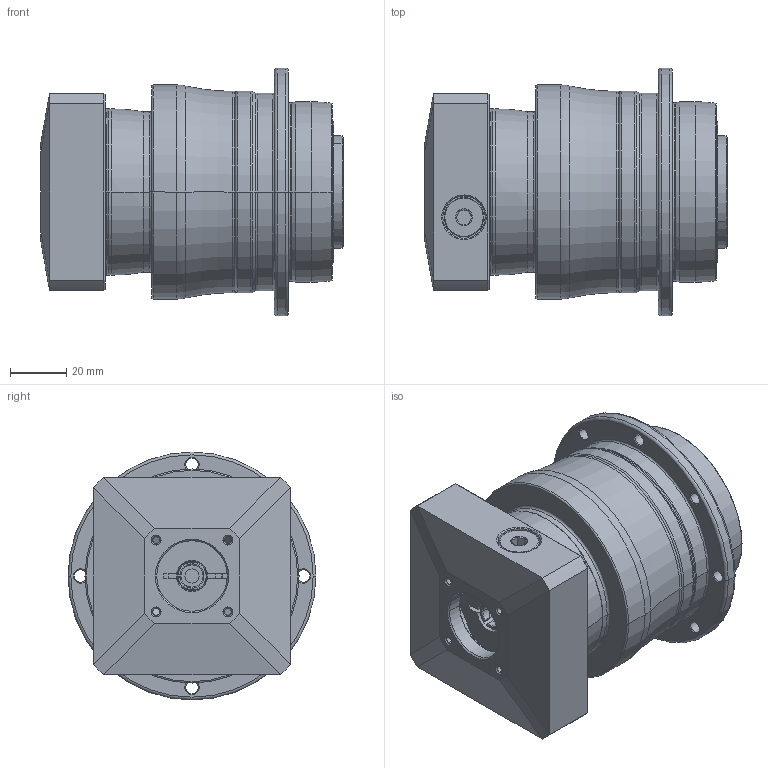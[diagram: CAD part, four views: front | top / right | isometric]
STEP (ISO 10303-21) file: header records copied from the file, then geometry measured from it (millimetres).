
FILE_DESCRIPTION((''),'2;1');
FILE_NAME('AH064_2ST_8-P0409100101_ASM','2016-08-03T',('d01943'),(''),'PRO/ENGINEER BY PARAMETRIC TECHNOLOGY CORPORATION, 2008410','PRO/ENGINEER BY PARAMETRIC TECHNOLOGY CORPORATION, 2008410','');
FILE_SCHEMA(('CONFIG_CONTROL_DESIGN'));
Length unit declared in the file: millimetre
Products named in the file (8): P0278200003; P0359200002; P1317200001; P0409100101; P0503100005; P0912100001; 21711410012; AH064_2ST_8-P0409100101_ASM
Assembly tree (7 placements, depth 2):
  AH064_2ST_8-P0409100101_ASM
    P0278200003
    P0359200002
    P1317200001
    P0409100101
    P0503100005
    P0912100001
    21711410012
Bounding box: 107.5 x 88 x 88 mm (x, y, z)
Volume: 377752.8 mm3; surface area: 80375.3 mm2
Topology: 8 solids, 8 shells, 503 faces, 1152 edges, 680 vertices
Faces by surface type: cylinder 188, cone 142, plane 91, torus 66, bspline 16
Entity records: 18837 total; most frequent: CARTESIAN_POINT 7252, DIRECTION 2591, ORIENTED_EDGE 2236, EDGE_CURVE 1118, AXIS2_PLACEMENT_3D 1095, VERTEX_POINT 680, CIRCLE 593, EDGE_LOOP 590
